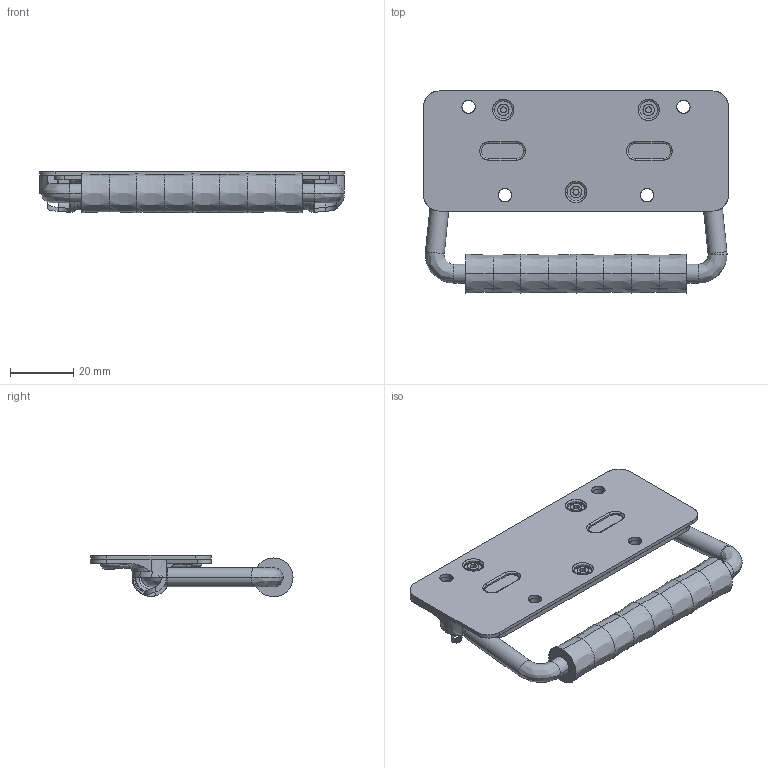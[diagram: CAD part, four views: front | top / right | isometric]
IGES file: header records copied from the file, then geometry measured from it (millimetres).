
Start section: SolidWorks IGES FILE using analytic representation for surfaces
Global section: file name: C:\Documents and Settings\lecoutey\Bureau\PR 1305\PR 305 ZB.IGS; native system: SolidWorks 2004 by SolidWorks Corporation; preprocessor: Version 5.3; author: lecoutey; date: 050408.171942; units: millimetre
Bounding box: 96.5 x 63.95 x 13.15 mm (x, y, z)
Surface area: 24058 mm2 (no closed solid volume)
Topology: 0 solids, 0 shells, 368 faces, 4613 edges, 4601 vertices
Faces by surface type: bspline 190, revolution 178
